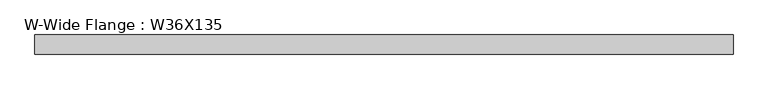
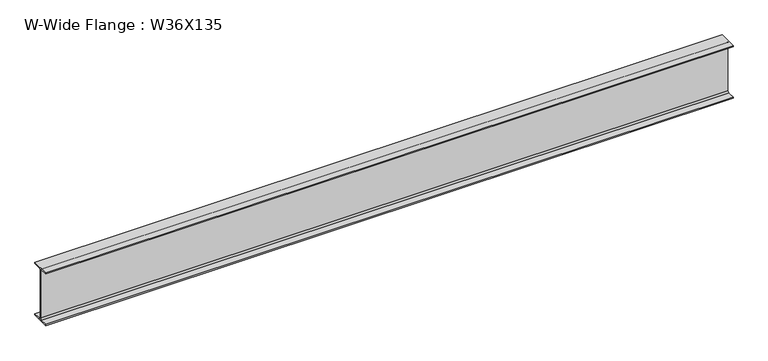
"""IFC4 building model written with IfcOpenShell, lengths in millimetres: beam geometry, W-Wide Flange : W36X135."""

from ifc_helpers import new_model, si_unit, point, frame, frame_2d, origin, place, context, project, spatial, polyline, circle_curve, trimmed, segment, composite_curve, outline, extrude, source, transform, mapped, element, save


def w_wide_flange_w36x135_1d218eeb(model_context):
    return source(origin(), model_context, "Body", "SweptSolid", [
        extrude(outline(composite_curve([segment(polyline([(152.4, -432.054), (152.4, -452.12), (-152.4, -452.12), (-152.4, -432.054), (-30.4165, -432.054)]), True, "CONTINUOUS"), segment(trimmed(circle_curve(frame_2d((-30.4165, -409.2575)), 22.7965), [point((-30.4165, -432.054))], [point((-7.62, -409.2575))], True, "CARTESIAN"), True, "CONTINUOUS"), segment(polyline([(-7.62, -409.2575), (-7.62, 409.2575)]), True, "CONTINUOUS"), segment(trimmed(circle_curve(frame_2d((-30.4165, 409.2575)), 22.7965), [point((-7.62, 409.2575))], [point((-30.4165, 432.054))], True, "CARTESIAN"), True, "CONTINUOUS"), segment(polyline([(-30.4165, 432.054), (-152.4, 432.054), (-152.4, 452.12), (152.4, 452.12), (152.4, 432.054), (30.4165, 432.054)]), True, "CONTINUOUS"), segment(trimmed(circle_curve(frame_2d((30.4165, 409.2575)), 22.7965), [point((30.4165, 432.054))], [point((7.62, 409.2575))], True, "CARTESIAN"), True, "CONTINUOUS"), segment(polyline([(7.62, 409.2575), (7.62, -409.2575)]), True, "CONTINUOUS"), segment(trimmed(circle_curve(frame_2d((30.4165, -409.2575)), 22.7965), [point((7.62, -409.2575))], [point((30.4165, -432.054))], True, "CARTESIAN"), True, "CONTINUOUS"), segment(polyline([(30.4165, -432.054), (152.4, -432.054)]), True, "CONTINUOUS")], self_intersect=False)), frame((-5634.0457682, 0.0, 0.0), z_axis=(1.0, 0.0, 0.0), x_axis=(0.0, 1.0, 0.0)), (0.0, 0.0, 1.0), 11134.3653879),
    ])


if __name__ == "__main__":
    model = new_model("IFC4")
    model_context = context("Model", 3, world=origin())
    ifc_project = project(units=[si_unit("LENGTHUNIT", "METRE", prefix="MILLI")], contexts=[model_context])
    site = spatial("IfcSite", under=ifc_project)
    building = spatial("IfcBuilding", under=site)
    placement = place(None, origin())
    w_wide_flange_w36x135_shape = w_wide_flange_w36x135_1d218eeb(model_context)
    element("IfcBeam", 1, ObjectType="W-Wide Flange : W36X135", at=placement, inside=building, context=model_context, shape_type="MappedRepresentation", body=[
        mapped(w_wide_flange_w36x135_shape, transform((0.0, 0.0, 0.0), x_axis=(1.0, 0.0, 0.0), y_axis=(0.0, 1.0, 0.0), z_axis=(0.0, 0.0, 1.0))),
    ])
    save(model, "model.ifc")
